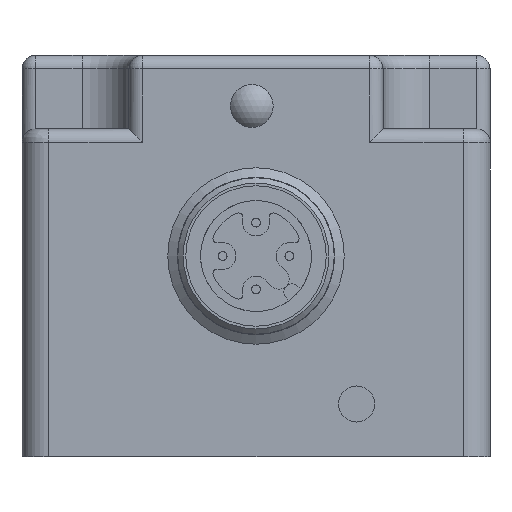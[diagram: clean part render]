
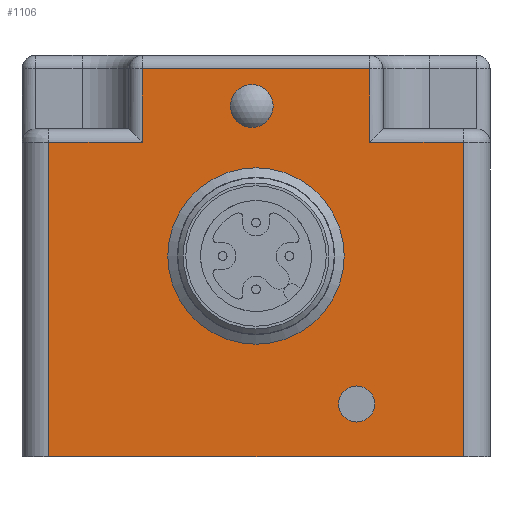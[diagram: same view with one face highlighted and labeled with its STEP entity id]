
A CAD part, left-side view. The second image highlights one B-rep face of the part: STEP entity #1106.
In plain terms, the highlighted planar face has unit normal (-1, 0, 0).
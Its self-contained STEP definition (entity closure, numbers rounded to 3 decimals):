
#246=CARTESIAN_POINT('',(-42.5,8.5,29.0));
#247=VERTEX_POINT('',#246);
#290=CARTESIAN_POINT('',(-42.5,-8.5,29.0));
#291=VERTEX_POINT('',#290);
#315=CARTESIAN_POINT('',(-42.5,8.5,29.0));
#316=DIRECTION('',(0.0,-1.0,0.0));
#317=VECTOR('',#316,17.0);
#318=LINE('',#315,#317);
#319=EDGE_CURVE('',#247,#291,#318,.T.);
#345=CARTESIAN_POINT('',(-42.5,-8.5,23.5));
#346=VERTEX_POINT('',#345);
#347=CARTESIAN_POINT('',(-42.5,-8.5,29.0));
#348=DIRECTION('',(0.0,0.0,-1.0));
#349=VECTOR('',#348,5.5);
#350=LINE('',#347,#349);
#351=EDGE_CURVE('',#291,#346,#350,.T.);
#400=CARTESIAN_POINT('',(-42.5,8.5,23.5));
#401=VERTEX_POINT('',#400);
#402=CARTESIAN_POINT('',(-42.5,8.5,23.5));
#403=DIRECTION('',(0.0,0.0,1.0));
#404=VECTOR('',#403,5.5);
#405=LINE('',#402,#404);
#406=EDGE_CURVE('',#401,#247,#405,.T.);
#464=CARTESIAN_POINT('',(-42.5,-15.5,23.5));
#465=VERTEX_POINT('',#464);
#482=CARTESIAN_POINT('',(-42.5,-8.5,23.5));
#483=DIRECTION('',(0.0,-1.0,0.0));
#484=VECTOR('',#483,7.);
#485=LINE('',#482,#484);
#486=EDGE_CURVE('',#346,#465,#485,.T.);
#532=CARTESIAN_POINT('',(-42.5,15.5,23.5));
#533=VERTEX_POINT('',#532);
#541=CARTESIAN_POINT('',(-42.5,15.5,23.5));
#542=DIRECTION('',(0.0,-1.0,0.0));
#543=VECTOR('',#542,7.);
#544=LINE('',#541,#543);
#545=EDGE_CURVE('',#533,#401,#544,.T.);
#1050=CARTESIAN_POINT('',(-42.5,-17.5,0.0));
#1051=DIRECTION('',(-1.0,0.0,0.0));
#1052=DIRECTION('',(0.0,0.0,1.0));
#1053=AXIS2_PLACEMENT_3D('',#1050,#1051,#1052);
#1054=PLANE('',#1053);
#1055=ORIENTED_EDGE('',*,*,#486,.F.);
#1056=ORIENTED_EDGE('',*,*,#351,.F.);
#1057=ORIENTED_EDGE('',*,*,#319,.F.);
#1058=ORIENTED_EDGE('',*,*,#406,.F.);
#1059=ORIENTED_EDGE('',*,*,#545,.F.);
#1060=CARTESIAN_POINT('',(-42.5,15.5,0.0));
#1061=VERTEX_POINT('',#1060);
#1062=CARTESIAN_POINT('',(-42.5,15.5,0.0));
#1063=DIRECTION('',(0.0,0.0,1.0));
#1064=VECTOR('',#1063,23.5);
#1065=LINE('',#1062,#1064);
#1066=EDGE_CURVE('',#1061,#533,#1065,.T.);
#1067=ORIENTED_EDGE('',*,*,#1066,.F.);
#1068=CARTESIAN_POINT('',(-42.5,-15.5,0.0));
#1069=VERTEX_POINT('',#1068);
#1070=CARTESIAN_POINT('',(-42.5,15.5,0.0));
#1071=DIRECTION('',(0.0,-1.0,0.0));
#1072=VECTOR('',#1071,31.);
#1073=LINE('',#1070,#1072);
#1074=EDGE_CURVE('',#1061,#1069,#1073,.T.);
#1075=ORIENTED_EDGE('',*,*,#1074,.T.);
#1076=CARTESIAN_POINT('',(-42.5,-15.5,23.5));
#1077=DIRECTION('',(0.0,0.0,-1.0));
#1078=VECTOR('',#1077,23.5);
#1079=LINE('',#1076,#1078);
#1080=EDGE_CURVE('',#465,#1069,#1079,.T.);
#1081=ORIENTED_EDGE('',*,*,#1080,.F.);
#1082=EDGE_LOOP('',(#1055,#1056,#1057,#1058,#1059,#1067,#1075,#1081));
#1083=FACE_OUTER_BOUND('',#1082,.T.);
#1084=CARTESIAN_POINT('',(-42.5,-7.529,5.28));
#1085=VERTEX_POINT('',#1084);
#1086=CARTESIAN_POINT('',(-42.5,-7.529,3.93));
#1087=DIRECTION('',(1.0,0.0,0.0));
#1088=DIRECTION('',(0.0,0.0,-1.0));
#1089=AXIS2_PLACEMENT_3D('',#1086,#1087,#1088);
#1090=CIRCLE('',#1089,1.35);
#1091=EDGE_CURVE('',#1085,#1085,#1090,.T.);
#1092=ORIENTED_EDGE('',*,*,#1091,.T.);
#1093=EDGE_LOOP('',(#1092));
#1094=FACE_BOUND('',#1093,.T.);
#1095=CARTESIAN_POINT('',(-42.5,0.316,27.816));
#1096=VERTEX_POINT('',#1095);
#1097=CARTESIAN_POINT('',(-42.5,0.316,26.216));
#1098=DIRECTION('',(1.0,0.0,0.0));
#1099=DIRECTION('',(0.0,0.0,-1.0));
#1100=AXIS2_PLACEMENT_3D('',#1097,#1098,#1099);
#1101=CIRCLE('',#1100,1.6);
#1102=EDGE_CURVE('',#1096,#1096,#1101,.T.);
#1103=ORIENTED_EDGE('',*,*,#1102,.T.);
#1104=EDGE_LOOP('',(#1103));
#1105=FACE_BOUND('',#1104,.T.);
#1106=ADVANCED_FACE('',(#1083,#1094,#1105),#1054,.T.);
